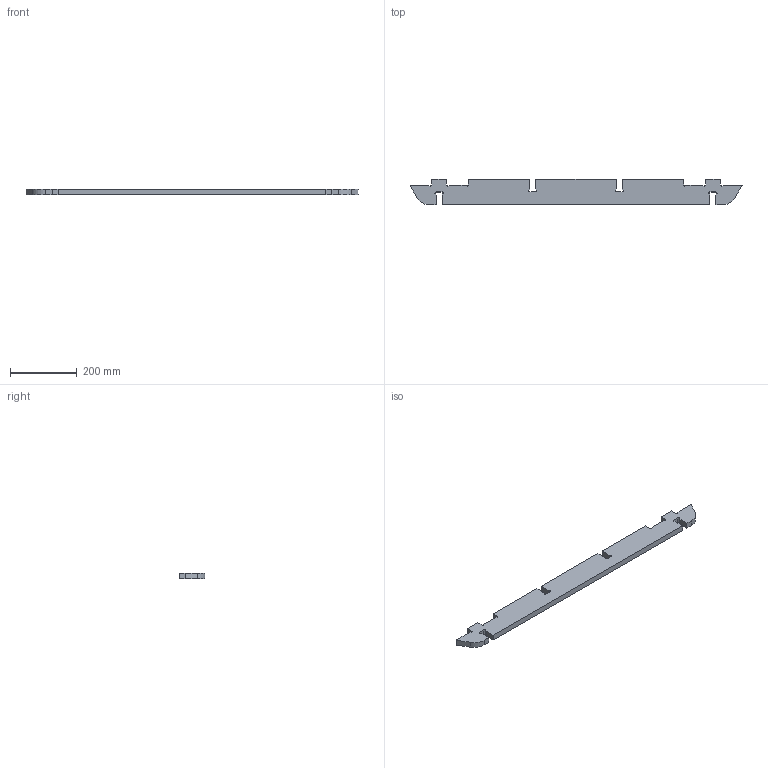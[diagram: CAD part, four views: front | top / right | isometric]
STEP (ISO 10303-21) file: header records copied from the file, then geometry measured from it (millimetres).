
FILE_DESCRIPTION (( 'STEP AP214' ), '1' );
FILE_NAME ('connecteur-traverses-milieux.STEP', '2018-04-07T05:50:46', ( '' ), ( '' ), 'SwSTEP 2.0', 'SolidWorks 2017', '' );
FILE_SCHEMA (( 'AUTOMOTIVE_DESIGN' ));
Length unit declared in the file: millimetre
Products named in the file (1): connecteur-traverses-milieux
Bounding box: 998.52 x 78 x 18 mm (x, y, z)
Volume: 1221931.3 mm3; surface area: 180999.4 mm2
Topology: 1 solids, 1 shells, 71 faces, 207 edges, 138 vertices
Faces by surface type: plane 48, cylinder 23
Entity records: 2381 total; most frequent: CARTESIAN_POINT 417, ORIENTED_EDGE 414, DIRECTION 397, EDGE_CURVE 207, VECTOR 161, LINE 161, VERTEX_POINT 138, AXIS2_PLACEMENT_3D 118
